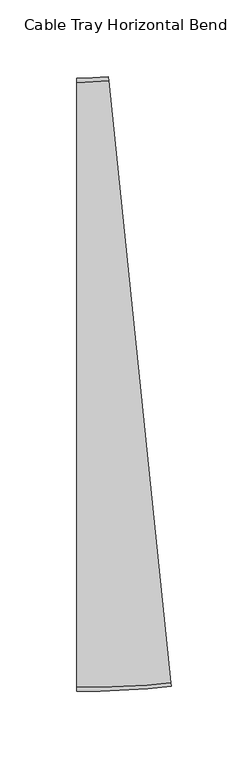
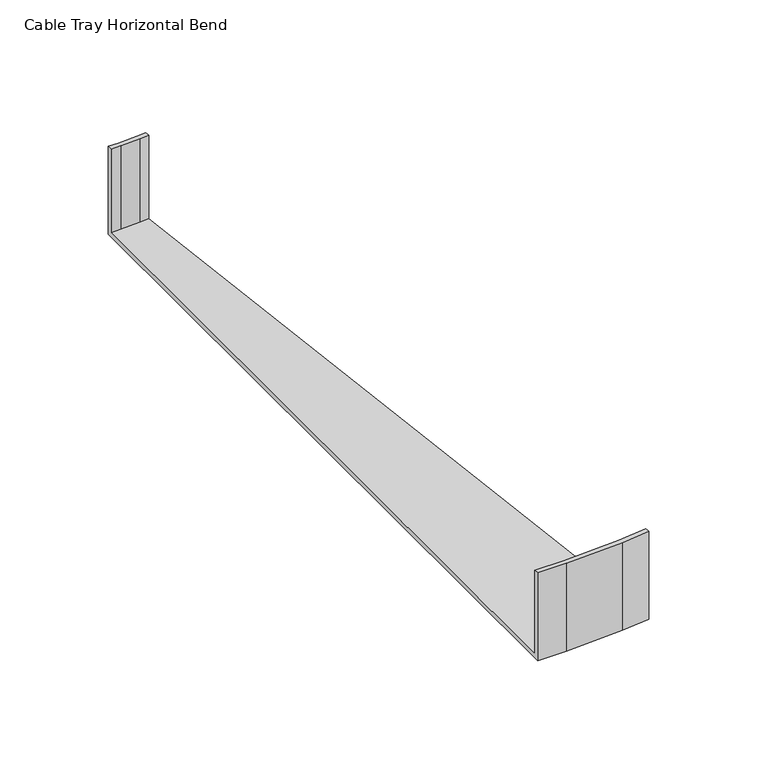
"""IFC4 building model written with IfcOpenShell, lengths in millimetres: cable carrier fitting geometry, Cable Tray Horizontal Bend : ELEC_SUB_CT_N2402."""

from ifc_helpers import new_model, si_unit, origin, place, context, project, spatial, faceted_brep, source, transform, mapped, element, save


def cable_tray_horizontal_bend_7b900498(model_context):
    return source(origin(), model_context, "Body", "Brep", [
        faceted_brep([(-20.6308194, -200.0, -25.0), (-20.6308194, -200.0, 25.0), (-20.6308194, -197.46, 25.0), (-20.6308194, -197.46, -22.46), (-20.6308194, 197.46, -22.46), (-20.6308194, 197.46, 25.0), (-20.6308194, 200.0, 25.0), (-20.6308194, 200.0, -25.0), (41.0974298, -196.8162391, -25.0), (-0.0547363, 201.0612536, -25.0), (-0.0547363, 201.0612536, 25.0), (0.2065799, 198.5347316, 25.0), (0.2065799, 198.5347316, -22.46), (40.8361135, -194.289717, -22.46), (40.8361135, -194.289717, 25.0), (41.0974298, -196.8162391, 25.0), (-5.1679815, -200.0, -25.0), (-5.1679815, -200.0, 25.0), (25.7166419, -198.4070623, 25.0), (25.5204376, -195.8738057, 25.0), (-5.2334409, -197.46, 25.0), (-5.2334409, -197.46, -22.46), (25.5204376, -195.8738057, -22.46), (-4.9854614, 197.9977227, -22.46), (-15.4110808, 197.46, -22.46), (-15.4110808, 197.46, 25.0), (-4.9854614, 197.9977227, 25.0), (-5.1816656, 200.5309792, 25.0), (-15.4765401, 200.0, 25.0), (-15.4765401, 200.0, -25.0), (-5.1816656, 200.5309792, -25.0), (25.7166419, -198.4070623, -25.0)], [[[0, 1, 2, 3, 4, 5, 6, 7]], [[8, 9, 10, 11, 12, 13, 14, 15]], [[1, 0, 16, 17]], [[2, 1, 17, 18, 15, 14, 19, 20]], [[3, 2, 20, 21]], [[4, 3, 21, 22, 13, 12, 23, 24]], [[5, 4, 24, 25]], [[6, 5, 25, 26, 11, 10, 27, 28]], [[7, 6, 28, 29]], [[0, 7, 29, 30, 9, 8, 31, 16]], [[17, 16, 31, 18]], [[21, 20, 19, 22]], [[25, 24, 23, 26]], [[29, 28, 27, 30]], [[18, 31, 8, 15]], [[22, 19, 14, 13]], [[26, 23, 12, 11]], [[30, 27, 10, 9]]]),
    ])


if __name__ == "__main__":
    model = new_model("IFC4")
    model_context = context("Model", 3, world=origin())
    ifc_project = project(units=[si_unit("LENGTHUNIT", "METRE", prefix="MILLI")], contexts=[model_context])
    site = spatial("IfcSite", under=ifc_project)
    building = spatial("IfcBuilding", under=site)
    placement = place(None, origin())
    cable_tray_horizontal_bend_shape = cable_tray_horizontal_bend_7b900498(model_context)
    element("IfcCableCarrierFitting", 1, ObjectType="Cable Tray Horizontal Bend : ELEC_SUB_CT_N2402", at=placement, inside=building, context=model_context, shape_type="MappedRepresentation", body=[
        mapped(cable_tray_horizontal_bend_shape, transform((0.0, 0.0, 0.0), x_axis=(1.0, 0.0, 0.0), y_axis=(0.0, 1.0, 0.0), z_axis=(0.0, 0.0, 1.0))),
    ])
    save(model, "model.ifc")
